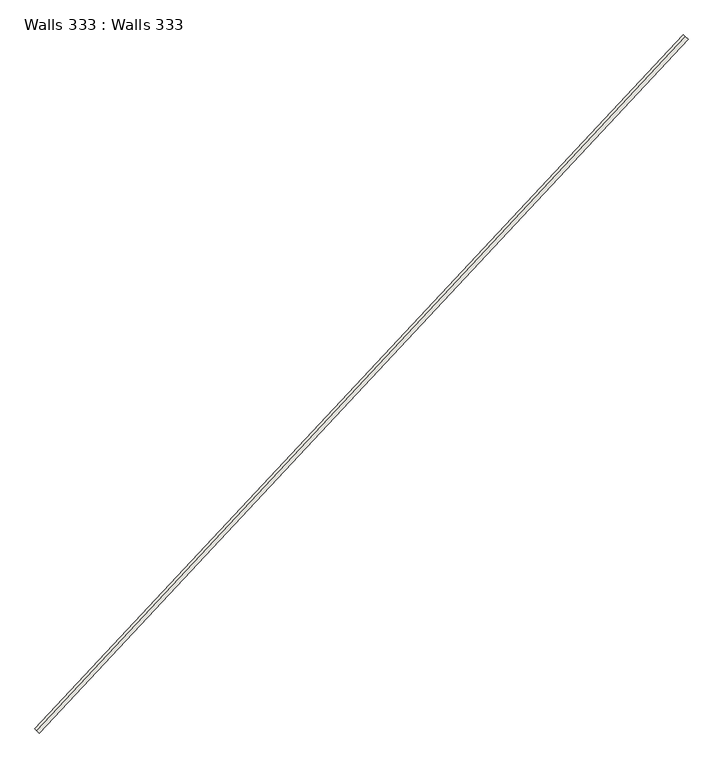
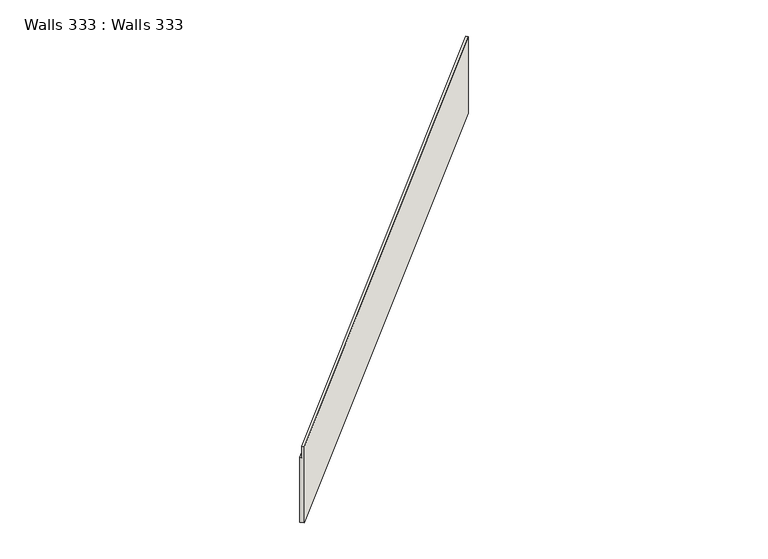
"""IFC4 building model written with IfcOpenShell, lengths in millimetres: wall geometry, Walls 333 : Walls 333."""

import ifcopenshell
import ifcopenshell.guid

model = None  # the IFC model being written
_history = None  # IfcOwnerHistory: only IFC2X3 demands one
_inside = {}  # id of a spatial element -> (the spatial element, [elements in it])
_under = {}  # id of a project, library or spatial element -> (it, [spatial elements below it])
_declared = {}  # id of a project -> (the project, [libraries it declares])
_typed = {}  # id of a type object -> (the type object, [elements of that type])
_made_of = {}  # id of a material, layer set ... -> (it, [elements and type objects made of it])


def new_model(schema):
    """Start an empty IFC model of exactly this schema.

    Asked for "IFC4X3", IfcOpenShell would pick the latest addendum, in which some entities
    have other attributes; the version numbers below select the first issue.
    IFC2X3 requires an IfcOwnerHistory on every rooted entity: one is made here for all.
    """
    global model, _history
    if schema == "IFC4X3":
        model = ifcopenshell.file(schema_version=(4, 3, 0, 0))
    else:
        model = ifcopenshell.file(schema=schema)
    _inside.clear()
    _under.clear()
    _declared.clear()
    _typed.clear()
    _made_of.clear()
    _history = None
    if model.schema == "IFC2X3":
        org = make("IfcOrganization", Name="unknown")
        user = make(
            "IfcPersonAndOrganization",
            ThePerson=make("IfcPerson", FamilyName="unknown"),
            TheOrganization=org,
        )
        app = make(
            "IfcApplication",
            ApplicationDeveloper=org,
            Version="unknown",
            ApplicationFullName="unknown",
            ApplicationIdentifier="unknown",
        )
        _history = make(
            "IfcOwnerHistory",
            OwningUser=user,
            OwningApplication=app,
            ChangeAction="ADDED",
            CreationDate=0,
        )
    return model


def make(cls, **values):
    """One entity of the class cls with the attributes given. An attribute that is None is left unset."""
    return model.create_entity(
        cls, **{name: value for name, value in values.items() if value is not None}
    )


def rooted(cls, **values):
    """An entity with a GlobalId (a new one), such as an element, a storey or a relation."""
    return make(cls, GlobalId=ifcopenshell.guid.new(), OwnerHistory=_history, **values)


def si_unit(unit_type, name, prefix=None):
    """IfcSIUnit, for example si_unit("LENGTHUNIT", "METRE", prefix="MILLI")."""
    return make("IfcSIUnit", UnitType=unit_type, Prefix=prefix, Name=name)


def assignment(units):
    """IfcUnitAssignment: the units of a project."""
    return None if units is None else make("IfcUnitAssignment", Units=units)


def point(xyz):
    """IfcCartesianPoint."""
    return None if xyz is None else make("IfcCartesianPoint", Coordinates=xyz)


def direction(xyz):
    """IfcDirection."""
    return None if xyz is None else make("IfcDirection", DirectionRatios=xyz)


def frame(location, z_axis=None, x_axis=None):
    """IfcAxis2Placement3D, a coordinate frame: its origin and axes. An axis left out is left unset."""
    return make(
        "IfcAxis2Placement3D",
        Location=point(location),
        Axis=direction(z_axis),
        RefDirection=direction(x_axis),
    )


def origin():
    """The frame at (0, 0, 0) with its axes left unset."""
    return frame((0.0, 0.0, 0.0))


def place(relative_to, where):
    """IfcLocalPlacement: puts the frame where relative to a parent placement (None: the world)."""
    return make(
        "IfcLocalPlacement", PlacementRelTo=relative_to, RelativePlacement=where
    )


def context(
    kind, dimensions, precision=None, world=None, true_north=None, identifier=None
):
    """IfcGeometricRepresentationContext, for example the 3D "Model" context."""
    return make(
        "IfcGeometricRepresentationContext",
        ContextIdentifier=identifier,
        ContextType=kind,
        CoordinateSpaceDimension=dimensions,
        Precision=precision,
        WorldCoordinateSystem=world,
        TrueNorth=true_north,
    )


def project(units=None, contexts=None):
    """IfcProject with its units and contexts."""
    return rooted(
        "IfcProject",
        Name="project",
        RepresentationContexts=contexts,
        UnitsInContext=assignment(units),
    )


def spatial(cls, under=None, at=None, **own):
    """A site, building, storey or space (cls), placed at a placement, below another one or the project."""
    s = rooted(cls, ObjectPlacement=at, **own)
    if under is not None:
        _under.setdefault(under.id(), (under, []))[1].append(s)
    return s


def faces_of(points, faces, orient=None, outer=None):
    """IfcFace entities. A face is a list of loops; a loop is a list of indices into points, from 0.

    orient and outer hold one flag for each loop. By default every Orientation is true, the
    first loop of a face is its IfcFaceOuterBound and the others are IfcFaceBound.
    """
    made = []
    for i, loops in enumerate(faces):
        bounds = []
        for j, loop in enumerate(loops):
            is_outer = j == 0 if outer is None else outer[i][j]
            bounds.append(
                make(
                    "IfcFaceOuterBound" if is_outer else "IfcFaceBound",
                    Bound=make("IfcPolyLoop", Polygon=[points[k] for k in loop]),
                    Orientation=True if orient is None else orient[i][j],
                )
            )
        made.append(make("IfcFace", Bounds=bounds))
    return made


def faceted_brep(points, faces, orient=None, outer=None, voids=None):
    """IfcFacetedBrep: a solid bounded by flat faces; with voids (closed shells), ...WithVoids."""
    shared = [point(p) for p in points]
    hull = make("IfcClosedShell", CfsFaces=faces_of(shared, faces, orient, outer))
    if voids is None:
        return make("IfcFacetedBrep", Outer=hull)
    return make(
        "IfcFacetedBrepWithVoids",
        Outer=hull,
        Voids=[
            make(cls, CfsFaces=faces_of(shared, fs, o, b)) for cls, fs, o, b in voids
        ],
    )


def shape(context_of_items, identifier, shape_type, items):
    """IfcShapeRepresentation: the items that make up one representation, for example the "Body"."""
    return make(
        "IfcShapeRepresentation",
        ContextOfItems=context_of_items,
        RepresentationIdentifier=identifier,
        RepresentationType=shape_type,
        Items=items,
    )


def source(mapping_origin, context_of_items, identifier, shape_type, items):
    """IfcRepresentationMap: a shape defined once, which mapped items show again and again."""
    return make(
        "IfcRepresentationMap",
        MappingOrigin=mapping_origin,
        MappedRepresentation=shape(context_of_items, identifier, shape_type, items),
    )


def transform(
    local_origin,
    x_axis=None,
    y_axis=None,
    z_axis=None,
    scale=None,
    scale2=None,
    scale3=None,
    uniform=True,
):
    """IfcCartesianTransformationOperator3D, or its non-uniform kind. x_axis, y_axis, z_axis: its Axis1, 2, 3."""
    if uniform:
        return make(
            "IfcCartesianTransformationOperator3D",
            Axis1=direction(x_axis),
            Axis2=direction(y_axis),
            LocalOrigin=point(local_origin),
            Scale=scale,
            Axis3=direction(z_axis),
        )
    return make(
        "IfcCartesianTransformationOperator3DnonUniform",
        Axis1=direction(x_axis),
        Axis2=direction(y_axis),
        LocalOrigin=point(local_origin),
        Scale=scale,
        Axis3=direction(z_axis),
        Scale2=scale2,
        Scale3=scale3,
    )


def mapped(mapping_source, mapping_target):
    """IfcMappedItem: shows the shape of a source again, moved by a transform."""
    return make(
        "IfcMappedItem", MappingSource=mapping_source, MappingTarget=mapping_target
    )


def made_of(thing, what):
    """Note that an element or type object is made of a material, layer set ...; save() writes the relation."""
    if what is not None:
        _made_of.setdefault(what.id(), (what, []))[1].append(thing)
    return thing


def element(
    cls,
    number,
    at=None,
    inside=None,
    cuts=None,
    type_object=None,
    material=None,
    context=None,
    identifier="Body",
    shape_type=None,
    held_by="IfcProductDefinitionShape",
    body=None,
    shapes=None,
    **own,
):
    """One element of the class cls, such as IfcWall. Its Tag is "e" and its number.

    at: its placement. inside: the storey or other place that contains it. cuts: it is an
    opening in that element (IfcRelVoidsElement). A single representation is given by context,
    identifier, shape_type and body (its items); several are given by shapes. held_by: the class
    of the entity that holds the representations. save() writes the other relations.
    """
    e = rooted(cls, Tag="e%d" % number, ObjectPlacement=at, **own)
    if body is not None:
        shapes = [shape(context, identifier, shape_type, body)]
    if shapes is not None:
        e.Representation = make(held_by, Representations=shapes)
    if inside is not None:
        _inside.setdefault(inside.id(), (inside, []))[1].append(e)
    if cuts is not None:
        rooted(
            "IfcRelVoidsElement", RelatingBuildingElement=cuts, RelatedOpeningElement=e
        )
    if type_object is not None:
        _typed.setdefault(type_object.id(), (type_object, []))[1].append(e)
    return made_of(e, material)


def aggregate(whole, parts):
    """IfcRelAggregates: a whole, such as a stair, and the parts it consists of."""
    return rooted("IfcRelAggregates", RelatingObject=whole, RelatedObjects=parts)


def save(model, path):
    """Write the relations noted so far, then the file.

    IfcRelAggregates (storeys below a building ...), IfcRelContainedInSpatialStructure (elements
    in a storey), IfcRelDefinesByType, IfcRelAssociatesMaterial and IfcRelDeclares: one each for
    every whole, place, type object, material and project.
    """
    for whole, parts in _under.values():
        aggregate(whole, parts)
    for where, things in _inside.values():
        rooted(
            "IfcRelContainedInSpatialStructure",
            RelatedElements=things,
            RelatingStructure=where,
        )
    for kind, things in _typed.values():
        rooted("IfcRelDefinesByType", RelatedObjects=things, RelatingType=kind)
    for what, things in _made_of.values():
        rooted("IfcRelAssociatesMaterial", RelatedObjects=things, RelatingMaterial=what)
    for by, libraries in _declared.values():
        rooted("IfcRelDeclares", RelatingContext=by, RelatedDefinitions=libraries)
    model.write(path)


def walls_333_walls_333_034909af(model_context):
    return source(origin(), model_context, "Body", "Brep", [
        faceted_brep([(-187049.6710721, -307504.9184292, 635854.0), (-186793.9664579, -307743.9061909, 635854.0), (-186793.9664579, -307743.9061909, 642688.0), (-186940.0833803, -307607.3417556, 642688.0), (-186940.0833803, -307607.3417556, 641688.0), (-187049.6710721, -307504.9184292, 641688.0), (-150690.9303131, -268602.9357009, 636296.0), (-150690.9303131, -268602.9357009, 642195.0), (-150581.3426213, -268705.3590274, 642195.0), (-150581.3426213, -268705.3590274, 643195.0), (-150435.2256988, -268841.9234626, 643195.0), (-150435.2256988, -268841.9234626, 636296.0)], [[[0, 1, 2, 3, 4, 5]], [[6, 7, 8, 9, 10, 11]], [[6, 11, 1, 0]], [[11, 10, 2, 1]], [[10, 9, 3, 2]], [[9, 8, 4, 3]], [[8, 7, 5, 4]], [[7, 6, 0, 5]]]),
    ])


if __name__ == "__main__":
    model = new_model("IFC4")
    model_context = context("Model", 3, world=origin())
    ifc_project = project(units=[si_unit("LENGTHUNIT", "METRE", prefix="MILLI")], contexts=[model_context])
    site = spatial("IfcSite", under=ifc_project)
    building = spatial("IfcBuilding", under=site)
    placement = place(None, origin())
    walls_333_walls_333_shape = walls_333_walls_333_034909af(model_context)
    element("IfcWall", 1, ObjectType="Walls 333 : Walls 333", at=placement, inside=building, context=model_context, shape_type="MappedRepresentation", body=[
        mapped(walls_333_walls_333_shape, transform((0.0, 0.0, 0.0), x_axis=(1.0, 0.0, 0.0), y_axis=(0.0, 1.0, 0.0), z_axis=(0.0, 0.0, 1.0))),
    ])
    save(model, "model.ifc")
